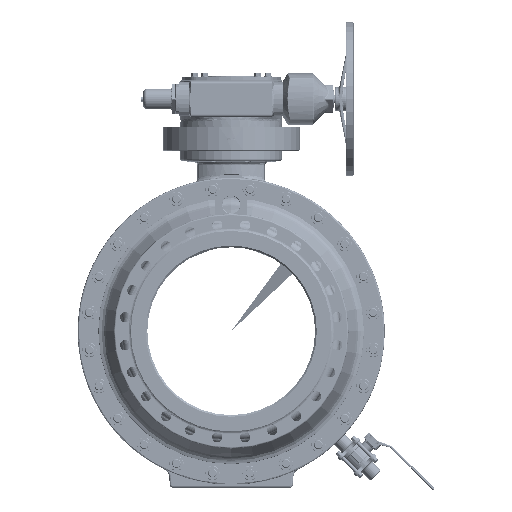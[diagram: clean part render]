
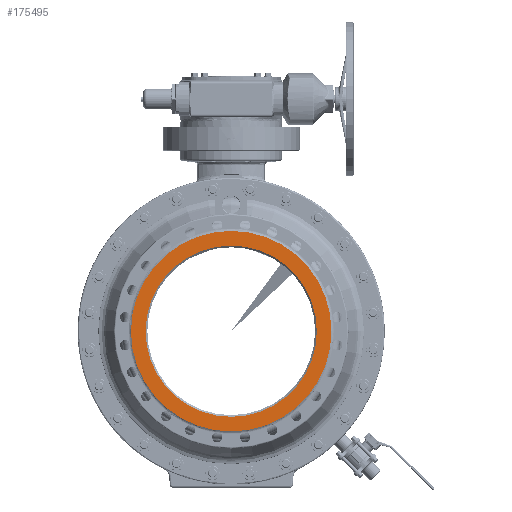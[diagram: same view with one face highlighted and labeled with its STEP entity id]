
A CAD part, left-side view. The second image highlights one B-rep face of the part: STEP entity #175495.
In plain terms, the highlighted planar face has unit normal (-1, 0, 0).
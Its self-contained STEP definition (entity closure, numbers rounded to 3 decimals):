
#48082=CARTESIAN_POINT('',(-622.5,0.,0.));
#48083=DIRECTION('',(1.,0.,0.));
#48084=DIRECTION('',(0.,0.,1.));
#48085=AXIS2_PLACEMENT_3D('',#48082,#48083,#48084);
#48091=CARTESIAN_POINT('',(-622.5,0.,0.));
#48092=DIRECTION('',(-1.,0.,0.));
#48093=DIRECTION('',(0.,0.,1.));
#48094=AXIS2_PLACEMENT_3D('',#48091,#48092,#48093);
#48801=CARTESIAN_POINT('',(-622.5,0.,0.));
#48802=DIRECTION('',(-1.,0.,0.));
#48803=DIRECTION('',(0.,0.,1.));
#48804=AXIS2_PLACEMENT_3D('',#48801,#48802,#48803);
#50342=CARTESIAN_POINT('',(-622.5,0.,0.));
#50343=DIRECTION('',(-1.,0.,0.));
#50344=DIRECTION('',(0.,0.,-1.));
#50345=AXIS2_PLACEMENT_3D('',#50342,#50343,#50344);
#111296=CARTESIAN_POINT('',(-622.5,0.,350.));
#111297=CARTESIAN_POINT('',(-622.5,0.,-350.));
#111298=VERTEX_POINT('',#111296);
#111299=VERTEX_POINT('',#111297);
#111304=CARTESIAN_POINT('',(-622.5,0.,410.));
#111305=CARTESIAN_POINT('',(-622.5,0.,-410.));
#111306=VERTEX_POINT('',#111304);
#111307=VERTEX_POINT('',#111305);
#175480=CARTESIAN_POINT('',(-622.5,0.,0.));
#175481=DIRECTION('',(-1.,0.,0.));
#175482=DIRECTION('',(0.,0.,-1.));
#175483=AXIS2_PLACEMENT_3D('',#175480,#175481,#175482);
#175484=PLANE('',#175483);
#175486=ORIENTED_EDGE('',*,*,#175485,.F.);
#175488=ORIENTED_EDGE('',*,*,#175487,.F.);
#175489=EDGE_LOOP('',(#175486,#175488));
#175490=FACE_OUTER_BOUND('',#175489,.F.);
#175491=ORIENTED_EDGE('',*,*,#175447,.F.);
#175492=ORIENTED_EDGE('',*,*,#175462,.T.);
#175493=EDGE_LOOP('',(#175491,#175492));
#175494=FACE_BOUND('',#175493,.F.);
#175495=ADVANCED_FACE('',(#175490,#175494),#175484,.T.);
#48086=CIRCLE('',#48085,350.);
#48095=CIRCLE('',#48094,350.);
#48805=CIRCLE('',#48804,410.);
#50346=CIRCLE('',#50345,410.);
#175447=EDGE_CURVE('',#111298,#111299,#48086,.T.);
#175462=EDGE_CURVE('',#111298,#111299,#48095,.T.);
#175485=EDGE_CURVE('',#111306,#111307,#48805,.T.);
#175487=EDGE_CURVE('',#111307,#111306,#50346,.T.);
